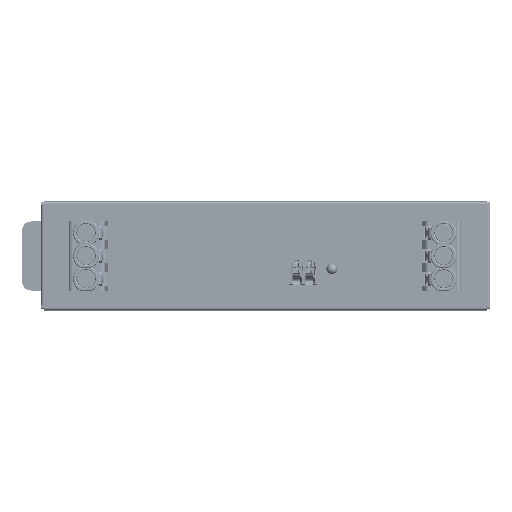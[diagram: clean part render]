
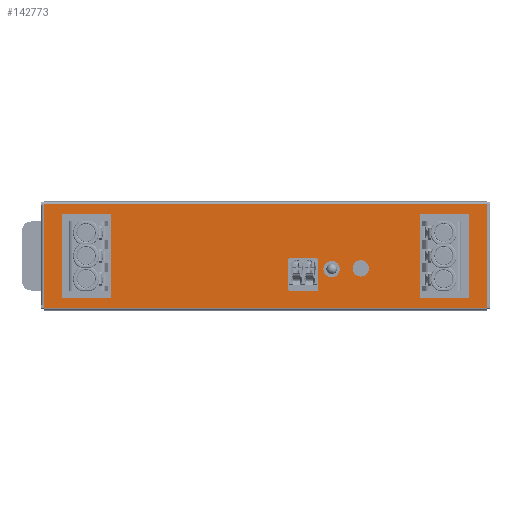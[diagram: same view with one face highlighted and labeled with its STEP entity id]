
A CAD part, front view. The second image highlights one B-rep face of the part: STEP entity #142773.
In plain terms, the highlighted planar face has unit normal (0, -1, 0) as drawn and (0, 0, 1) by its records, which use the part's own axes.
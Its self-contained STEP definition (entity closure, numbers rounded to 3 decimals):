
#134159=DIRECTION('',(0.,1.,0.));
#134160=VECTOR('',#134159,122.);
#134161=CARTESIAN_POINT('',(1275.2,-1.,0.8));
#134162=LINE('',#134161,#134160);
#134167=DIRECTION('',(1.,0.,0.));
#134168=VECTOR('',#134167,0.2);
#134169=CARTESIAN_POINT('',(1275.,121.,0.8));
#134170=LINE('',#134169,#134168);
#134171=DIRECTION('',(-1.,0.,0.));
#134172=VECTOR('',#134171,0.2);
#134173=CARTESIAN_POINT('',(1275.2,-1.,0.8));
#134174=LINE('',#134173,#134172);
#134175=DIRECTION('',(-1.,0.,0.));
#134176=VECTOR('',#134175,0.8);
#134177=CARTESIAN_POINT('',(1247.6,-1.,0.8));
#134178=LINE('',#134177,#134176);
#134179=DIRECTION('',(1.,0.,0.));
#134180=VECTOR('',#134179,0.8);
#134181=CARTESIAN_POINT('',(1246.8,121.,0.8));
#134182=LINE('',#134181,#134180);
#134183=CARTESIAN_POINT('',(1257.4,41.8,0.8));
#134184=DIRECTION('',(0.,0.,1.));
#134185=DIRECTION('',(0.,1.,0.));
#134186=AXIS2_PLACEMENT_3D('',#134183,#134184,#134185);
#134188=CARTESIAN_POINT('',(1257.4,41.8,0.8));
#134189=DIRECTION('',(0.,0.,1.));
#134190=DIRECTION('',(0.,-1.,0.));
#134191=AXIS2_PLACEMENT_3D('',#134188,#134189,#134190);
#134193=CARTESIAN_POINT('',(1257.6,33.75,0.8));
#134194=DIRECTION('',(0.,0.,1.));
#134195=DIRECTION('',(0.,1.,0.));
#134196=AXIS2_PLACEMENT_3D('',#134193,#134194,#134195);
#134198=CARTESIAN_POINT('',(1257.6,33.75,0.8));
#134199=DIRECTION('',(0.,0.,1.));
#134200=DIRECTION('',(0.,-1.,0.));
#134201=AXIS2_PLACEMENT_3D('',#134198,#134199,#134200);
#134203=DIRECTION('',(0.,1.,0.));
#134204=VECTOR('',#134203,13.6);
#134205=CARTESIAN_POINT('',(1272.5,3.9,0.8));
#134206=LINE('',#134205,#134204);
#134207=DIRECTION('',(-1.,0.,0.));
#134208=VECTOR('',#134207,23.);
#134209=CARTESIAN_POINT('',(1272.5,17.5,0.8));
#134210=LINE('',#134209,#134208);
#134211=DIRECTION('',(0.,-1.,0.));
#134212=VECTOR('',#134211,13.6);
#134213=CARTESIAN_POINT('',(1249.5,17.5,0.8));
#134214=LINE('',#134213,#134212);
#134215=DIRECTION('',(1.,0.,0.));
#134216=VECTOR('',#134215,23.);
#134217=CARTESIAN_POINT('',(1249.5,3.9,0.8));
#134218=LINE('',#134217,#134216);
#134219=DIRECTION('',(0.,1.,0.));
#134220=VECTOR('',#134219,13.6);
#134221=CARTESIAN_POINT('',(1272.5,102.5,0.8));
#134222=LINE('',#134221,#134220);
#134223=DIRECTION('',(-1.,0.,0.));
#134224=VECTOR('',#134223,23.);
#134225=CARTESIAN_POINT('',(1272.5,116.1,0.8));
#134226=LINE('',#134225,#134224);
#134227=DIRECTION('',(0.,-1.,0.));
#134228=VECTOR('',#134227,13.6);
#134229=CARTESIAN_POINT('',(1249.5,116.1,0.8));
#134230=LINE('',#134229,#134228);
#134231=DIRECTION('',(1.,0.,0.));
#134232=VECTOR('',#134231,23.);
#134233=CARTESIAN_POINT('',(1249.5,102.5,0.8));
#134234=LINE('',#134233,#134232);
#134235=DIRECTION('',(1.,0.,0.));
#134236=VECTOR('',#134235,8.4);
#134237=CARTESIAN_POINT('',(1251.7,45.6,0.8));
#134238=LINE('',#134237,#134236);
#134239=CARTESIAN_POINT('',(1260.1,45.9,0.8));
#134240=DIRECTION('',(0.,0.,1.));
#134241=DIRECTION('',(0.,-1.,0.));
#134242=AXIS2_PLACEMENT_3D('',#134239,#134240,#134241);
#134244=DIRECTION('',(0.,1.,0.));
#134245=VECTOR('',#134244,7.5);
#134246=CARTESIAN_POINT('',(1260.4,45.9,0.8));
#134247=LINE('',#134246,#134245);
#134248=CARTESIAN_POINT('',(1260.1,53.4,0.8));
#134249=DIRECTION('',(0.,0.,1.));
#134250=DIRECTION('',(1.,0.,0.));
#134251=AXIS2_PLACEMENT_3D('',#134248,#134249,#134250);
#134253=DIRECTION('',(-1.,0.,0.));
#134254=VECTOR('',#134253,8.4);
#134255=CARTESIAN_POINT('',(1260.1,53.7,0.8));
#134256=LINE('',#134255,#134254);
#134257=CARTESIAN_POINT('',(1251.7,53.4,0.8));
#134258=DIRECTION('',(0.,0.,1.));
#134259=DIRECTION('',(0.,1.,0.));
#134260=AXIS2_PLACEMENT_3D('',#134257,#134258,#134259);
#134262=DIRECTION('',(0.,-1.,0.));
#134263=VECTOR('',#134262,7.5);
#134264=CARTESIAN_POINT('',(1251.4,53.4,0.8));
#134265=LINE('',#134264,#134263);
#134266=CARTESIAN_POINT('',(1251.7,45.9,0.8));
#134267=DIRECTION('',(0.,0.,1.));
#134268=DIRECTION('',(-1.,0.,0.));
#134269=AXIS2_PLACEMENT_3D('',#134266,#134267,#134268);
#134292=DIRECTION('',(-1.,0.,0.));
#134293=VECTOR('',#134292,27.4);
#134294=CARTESIAN_POINT('',(1275.,121.,0.8));
#134295=LINE('',#134294,#134293);
#134378=DIRECTION('',(0.,-1.,0.));
#134379=VECTOR('',#134378,122.);
#134380=CARTESIAN_POINT('',(1246.8,121.,0.8));
#134381=LINE('',#134380,#134379);
#134596=DIRECTION('',(1.,0.,0.));
#134597=VECTOR('',#134596,27.4);
#134598=CARTESIAN_POINT('',(1247.6,-1.,0.8));
#134599=LINE('',#134598,#134597);
#139724=CARTESIAN_POINT('',(1275.2,121.,0.8));
#139725=VERTEX_POINT('',#139724);
#139726=CARTESIAN_POINT('',(1275.2,-1.,0.8));
#139727=VERTEX_POINT('',#139726);
#139728=CARTESIAN_POINT('',(1275.,121.,0.8));
#139729=VERTEX_POINT('',#139728);
#139730=CARTESIAN_POINT('',(1275.,-1.,0.8));
#139731=VERTEX_POINT('',#139730);
#139732=CARTESIAN_POINT('',(1247.6,-1.,0.8));
#139733=VERTEX_POINT('',#139732);
#139734=CARTESIAN_POINT('',(1246.8,-1.,0.8));
#139735=VERTEX_POINT('',#139734);
#139736=CARTESIAN_POINT('',(1246.8,121.,0.8));
#139737=VERTEX_POINT('',#139736);
#139738=CARTESIAN_POINT('',(1247.6,121.,0.8));
#139739=VERTEX_POINT('',#139738);
#139740=CARTESIAN_POINT('',(1257.4,44.05,0.8));
#139741=CARTESIAN_POINT('',(1257.4,39.55,0.8));
#139742=VERTEX_POINT('',#139740);
#139743=VERTEX_POINT('',#139741);
#139744=CARTESIAN_POINT('',(1257.6,36.,0.8));
#139745=CARTESIAN_POINT('',(1257.6,31.5,0.8));
#139746=VERTEX_POINT('',#139744);
#139747=VERTEX_POINT('',#139745);
#139748=CARTESIAN_POINT('',(1272.5,3.9,0.8));
#139749=CARTESIAN_POINT('',(1272.5,17.5,0.8));
#139750=VERTEX_POINT('',#139748);
#139751=VERTEX_POINT('',#139749);
#139752=CARTESIAN_POINT('',(1249.5,17.5,0.8));
#139753=VERTEX_POINT('',#139752);
#139754=CARTESIAN_POINT('',(1249.5,3.9,0.8));
#139755=VERTEX_POINT('',#139754);
#139756=CARTESIAN_POINT('',(1272.5,102.5,0.8));
#139757=CARTESIAN_POINT('',(1272.5,116.1,0.8));
#139758=VERTEX_POINT('',#139756);
#139759=VERTEX_POINT('',#139757);
#139760=CARTESIAN_POINT('',(1249.5,116.1,0.8));
#139761=VERTEX_POINT('',#139760);
#139762=CARTESIAN_POINT('',(1249.5,102.5,0.8));
#139763=VERTEX_POINT('',#139762);
#139764=CARTESIAN_POINT('',(1251.7,45.6,0.8));
#139765=CARTESIAN_POINT('',(1260.1,45.6,0.8));
#139766=VERTEX_POINT('',#139764);
#139767=VERTEX_POINT('',#139765);
#139768=CARTESIAN_POINT('',(1260.4,45.9,0.8));
#139769=VERTEX_POINT('',#139768);
#139770=CARTESIAN_POINT('',(1260.4,53.4,0.8));
#139771=VERTEX_POINT('',#139770);
#139772=CARTESIAN_POINT('',(1260.1,53.7,0.8));
#139773=VERTEX_POINT('',#139772);
#139774=CARTESIAN_POINT('',(1251.7,53.7,0.8));
#139775=VERTEX_POINT('',#139774);
#139776=CARTESIAN_POINT('',(1251.4,53.4,0.8));
#139777=VERTEX_POINT('',#139776);
#139778=CARTESIAN_POINT('',(1251.4,45.9,0.8));
#139779=VERTEX_POINT('',#139778);
#142701=CARTESIAN_POINT('',(1276.,121.,0.8));
#142702=DIRECTION('',(0.,0.,1.));
#142703=DIRECTION('',(0.,1.,0.));
#142704=AXIS2_PLACEMENT_3D('',#142701,#142702,#142703);
#142705=PLANE('',#142704);
#142707=ORIENTED_EDGE('',*,*,#142706,.T.);
#142708=ORIENTED_EDGE('',*,*,#142692,.F.);
#142710=ORIENTED_EDGE('',*,*,#142709,.T.);
#142712=ORIENTED_EDGE('',*,*,#142711,.F.);
#142714=ORIENTED_EDGE('',*,*,#142713,.T.);
#142716=ORIENTED_EDGE('',*,*,#142715,.F.);
#142718=ORIENTED_EDGE('',*,*,#142717,.T.);
#142720=ORIENTED_EDGE('',*,*,#142719,.F.);
#142721=EDGE_LOOP('',(#142707,#142708,#142710,#142712,#142714,#142716,#142718,
#142720));
#142722=FACE_OUTER_BOUND('',#142721,.F.);
#142724=ORIENTED_EDGE('',*,*,#142723,.T.);
#142726=ORIENTED_EDGE('',*,*,#142725,.T.);
#142727=EDGE_LOOP('',(#142724,#142726));
#142728=FACE_BOUND('',#142727,.F.);
#142730=ORIENTED_EDGE('',*,*,#142729,.T.);
#142732=ORIENTED_EDGE('',*,*,#142731,.T.);
#142733=EDGE_LOOP('',(#142730,#142732));
#142734=FACE_BOUND('',#142733,.F.);
#142736=ORIENTED_EDGE('',*,*,#142735,.T.);
#142738=ORIENTED_EDGE('',*,*,#142737,.T.);
#142740=ORIENTED_EDGE('',*,*,#142739,.T.);
#142742=ORIENTED_EDGE('',*,*,#142741,.T.);
#142743=EDGE_LOOP('',(#142736,#142738,#142740,#142742));
#142744=FACE_BOUND('',#142743,.F.);
#142746=ORIENTED_EDGE('',*,*,#142745,.T.);
#142748=ORIENTED_EDGE('',*,*,#142747,.T.);
#142750=ORIENTED_EDGE('',*,*,#142749,.T.);
#142752=ORIENTED_EDGE('',*,*,#142751,.T.);
#142753=EDGE_LOOP('',(#142746,#142748,#142750,#142752));
#142754=FACE_BOUND('',#142753,.F.);
#142756=ORIENTED_EDGE('',*,*,#142755,.T.);
#142758=ORIENTED_EDGE('',*,*,#142757,.T.);
#142760=ORIENTED_EDGE('',*,*,#142759,.T.);
#142762=ORIENTED_EDGE('',*,*,#142761,.T.);
#142764=ORIENTED_EDGE('',*,*,#142763,.T.);
#142766=ORIENTED_EDGE('',*,*,#142765,.T.);
#142768=ORIENTED_EDGE('',*,*,#142767,.T.);
#142770=ORIENTED_EDGE('',*,*,#142769,.T.);
#142771=EDGE_LOOP('',(#142756,#142758,#142760,#142762,#142764,#142766,#142768,
#142770));
#142772=FACE_BOUND('',#142771,.F.);
#142773=ADVANCED_FACE('',(#142722,#142728,#142734,#142744,#142754,#142772),
#142705,.T.);
#134187=CIRCLE('',#134186,2.25);
#134192=CIRCLE('',#134191,2.25);
#134197=CIRCLE('',#134196,2.25);
#134202=CIRCLE('',#134201,2.25);
#134243=CIRCLE('',#134242,0.3);
#134252=CIRCLE('',#134251,0.3);
#134261=CIRCLE('',#134260,0.3);
#134270=CIRCLE('',#134269,0.3);
#142692=EDGE_CURVE('',#139727,#139725,#134162,.T.);
#142706=EDGE_CURVE('',#139729,#139725,#134170,.T.);
#142709=EDGE_CURVE('',#139727,#139731,#134174,.T.);
#142711=EDGE_CURVE('',#139733,#139731,#134599,.T.);
#142713=EDGE_CURVE('',#139733,#139735,#134178,.T.);
#142715=EDGE_CURVE('',#139737,#139735,#134381,.T.);
#142717=EDGE_CURVE('',#139737,#139739,#134182,.T.);
#142719=EDGE_CURVE('',#139729,#139739,#134295,.T.);
#142723=EDGE_CURVE('',#139742,#139743,#134187,.T.);
#142725=EDGE_CURVE('',#139743,#139742,#134192,.T.);
#142729=EDGE_CURVE('',#139746,#139747,#134197,.T.);
#142731=EDGE_CURVE('',#139747,#139746,#134202,.T.);
#142735=EDGE_CURVE('',#139750,#139751,#134206,.T.);
#142737=EDGE_CURVE('',#139751,#139753,#134210,.T.);
#142739=EDGE_CURVE('',#139753,#139755,#134214,.T.);
#142741=EDGE_CURVE('',#139755,#139750,#134218,.T.);
#142745=EDGE_CURVE('',#139758,#139759,#134222,.T.);
#142747=EDGE_CURVE('',#139759,#139761,#134226,.T.);
#142749=EDGE_CURVE('',#139761,#139763,#134230,.T.);
#142751=EDGE_CURVE('',#139763,#139758,#134234,.T.);
#142755=EDGE_CURVE('',#139766,#139767,#134238,.T.);
#142757=EDGE_CURVE('',#139767,#139769,#134243,.T.);
#142759=EDGE_CURVE('',#139769,#139771,#134247,.T.);
#142761=EDGE_CURVE('',#139771,#139773,#134252,.T.);
#142763=EDGE_CURVE('',#139773,#139775,#134256,.T.);
#142765=EDGE_CURVE('',#139775,#139777,#134261,.T.);
#142767=EDGE_CURVE('',#139777,#139779,#134265,.T.);
#142769=EDGE_CURVE('',#139779,#139766,#134270,.T.);
